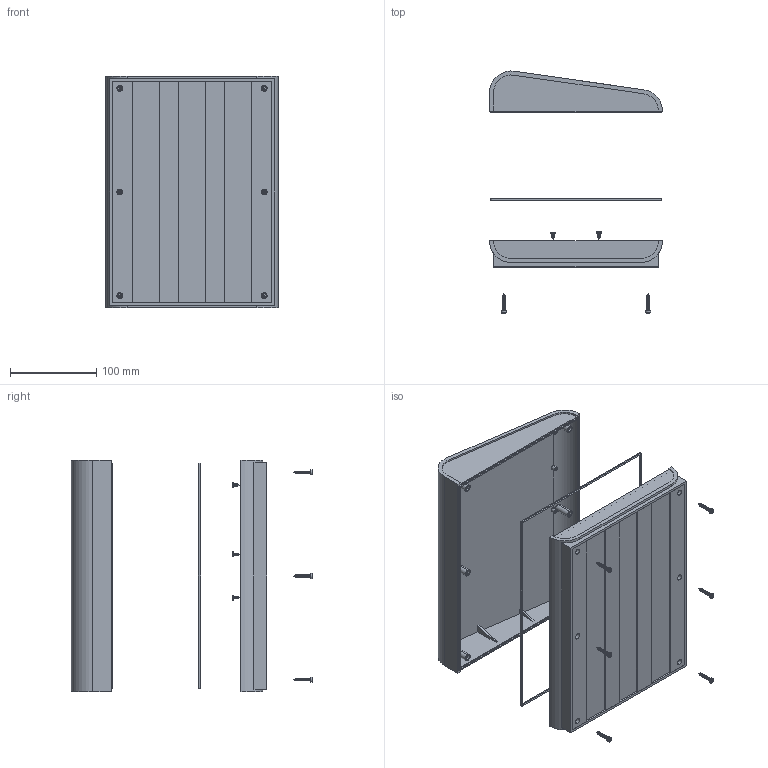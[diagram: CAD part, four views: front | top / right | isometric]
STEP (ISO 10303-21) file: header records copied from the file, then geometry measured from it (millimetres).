
FILE_DESCRIPTION (( 'STEP AP214' ), '1' );
FILE_NAME ('Conjunt PP105G.STEP', '2017-08-24T07:31:06', ( 'aaa' ), ( '' ), 'SwSTEP 2.0', 'SolidWorks 2013', '' );
FILE_SCHEMA (( 'AUTOMOTIVE_DESIGN' ));
Length unit declared in the file: millimetre
Products named in the file (6): Cargol 3x8; Cargol 3x22; Junta torica PP105; Tapa PP105G; Cos PP105G; Conjunt PP105G
Assembly tree (14 placements, depth 2):
  Conjunt PP105G
    Cos PP105G
    Tapa PP105G
    Junta torica PP105
    Cargol 3x22  x6
    Cargol 3x8  x5
Bounding box: 200 x 279.59 x 268 mm (x, y, z)
Volume: 612710.5 mm3; surface area: 359459 mm2
Topology: 14 solids, 14 shells, 1814 faces, 3876 edges, 2171 vertices
Faces by surface type: cone 1202, plane 382, cylinder 200, torus 30
Entity records: 21043 total; most frequent: CARTESIAN_POINT 4418, DIRECTION 3610, ORIENTED_EDGE 3112, EDGE_CURVE 1556, AXIS2_PLACEMENT_3D 1385, VERTEX_POINT 954, LINE 840, VECTOR 840
